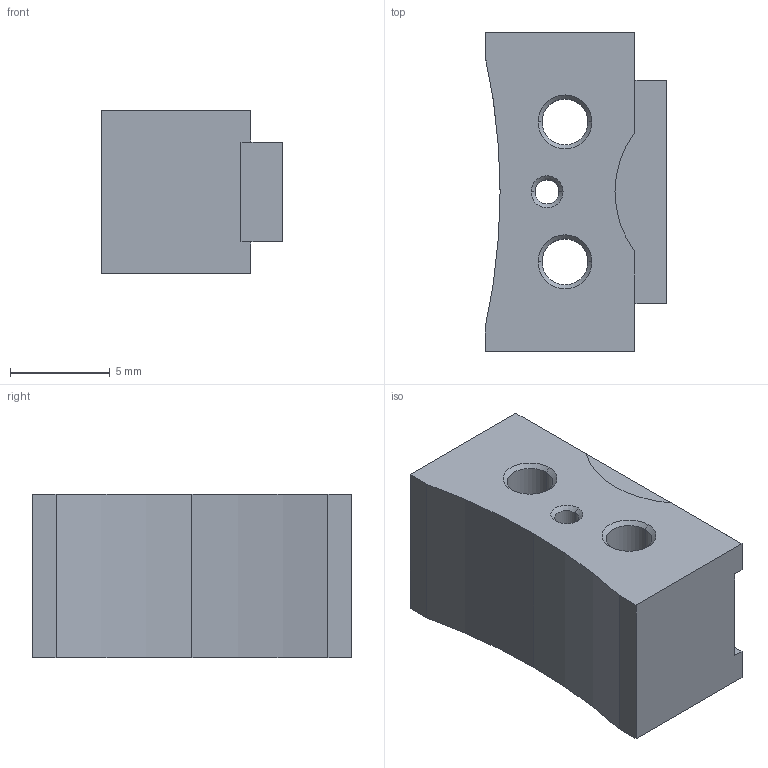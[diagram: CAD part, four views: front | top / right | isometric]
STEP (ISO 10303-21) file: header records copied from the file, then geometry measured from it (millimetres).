
FILE_DESCRIPTION (( 'STEP AP203' ), '1' );
FILE_NAME ('FX-AT3.STEP', '2005-09-08T02:50:53', ( '' ), ( '' ), 'SwSTEP 2.0', 'SolidWorks 2004073', '' );
FILE_SCHEMA (( 'CONFIG_CONTROL_DESIGN' ));
Length unit declared in the file: millimetre
Products named in the file (1): FX-AT3
Bounding box: 9.1 x 16 x 8.2 mm (x, y, z)
Volume: 912.7 mm3; surface area: 797.3 mm2
Topology: 1 solids, 1 shells, 44 faces, 110 edges, 68 vertices
Faces by surface type: plane 21, cone 12, cylinder 11
Entity records: 1389 total; most frequent: DIRECTION 234, CARTESIAN_POINT 223, ORIENTED_EDGE 220, EDGE_CURVE 110, AXIS2_PLACEMENT_3D 79, VECTOR 76, LINE 76, VERTEX_POINT 68
